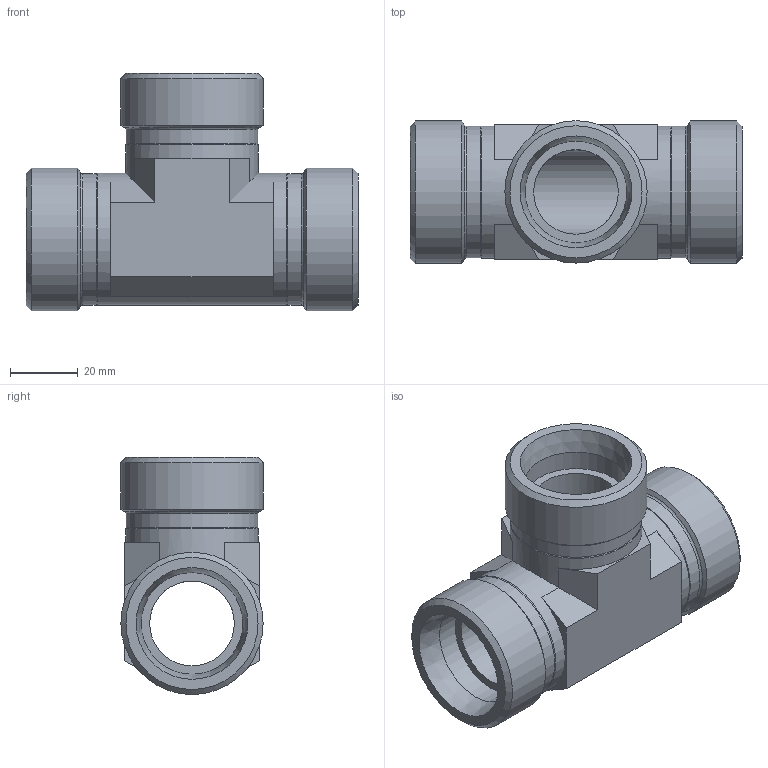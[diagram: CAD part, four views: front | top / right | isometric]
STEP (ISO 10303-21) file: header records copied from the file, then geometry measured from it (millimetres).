
FILE_DESCRIPTION( ( 'Unknown' ), '1' );
FILE_NAME( 'C:/Users/p.nanko/Desktop/3D SR/XT30S.stp', 'Unknown', ( 'Peter Nanko' ), ( 'Armaturen Arndt' ), 'PSStep 14.0', 'Solid Edge ST4', ' ' );
FILE_SCHEMA( ( 'AUTOMOTIVE_DESIGN { 1 0 10303 214 1 1 1 1 }' ) );
Length unit declared in the file: millimetre
Products named in the file (1): 1
Bounding box: 98 x 42 x 70 mm (x, y, z)
Volume: 92729.2 mm3; surface area: 29407.3 mm2
Topology: 1 solids, 1 shells, 52 faces, 121 edges, 75 vertices
Faces by surface type: plane 24, cylinder 13, cone 9, torus 6
Full cylindrical faces by diameter (mm): 25 x2, 30 x3, 38.8 x3, 39 x2, 42 x3
Entity records: 1700 total; most frequent: DIRECTION 234, CARTESIAN_POINT 205, ORIENTED_EDGE 170, AXIS2_PLACEMENT_3D 96, EDGE_LOOP 88, EDGE_CURVE 85, FACE_OUTER_BOUND 71, VERTEX_POINT 67
